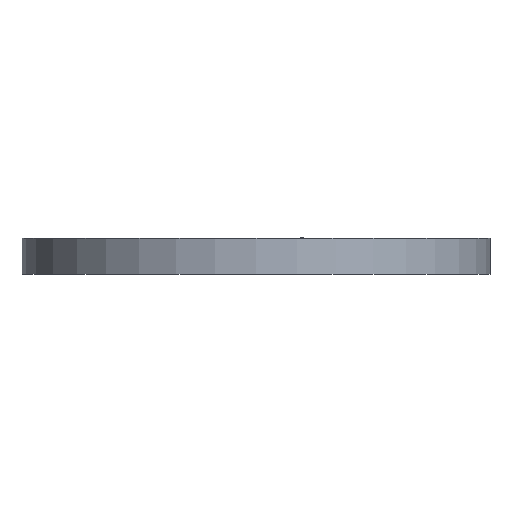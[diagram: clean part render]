
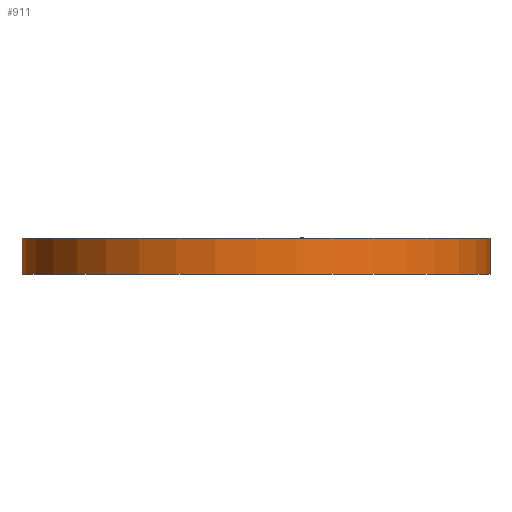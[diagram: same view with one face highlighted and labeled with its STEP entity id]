
A CAD part, front view. The second image highlights one B-rep face of the part: STEP entity #911.
In plain terms, the highlighted cylindrical face has radius 13 mm (diameter 26 mm), a partial arc.
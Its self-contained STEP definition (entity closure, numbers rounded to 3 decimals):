
#37 = CARTESIAN_POINT ( 'NONE',  ( 0., 0., 2. ) ) ;
#41 = DIRECTION ( 'NONE',  ( 0., 0., -1. ) ) ;
#42 = DIRECTION ( 'NONE',  ( -1., 0., 0. ) ) ;
#401 = EDGE_CURVE ( 'NONE', #973, #968, #575, .T. ) ;
#477 = EDGE_CURVE ( 'NONE', #976, #973, #671, .T. ) ;
#487 = EDGE_CURVE ( 'NONE', #962, #968, #659, .T. ) ;
#496 = EDGE_CURVE ( 'NONE', #976, #962, #736, .T. ) ;
#516 = AXIS2_PLACEMENT_3D ( 'NONE', #2005, #1996, #2033 ) ;
#521 = AXIS2_PLACEMENT_3D ( 'NONE', #2864, #2838, #2855 ) ;
#554 = EDGE_LOOP ( 'NONE', ( #1144, #1094, #1145, #1127 ) ) ;
#575 = CIRCLE ( 'NONE', #516, 13. ) ;
#646 = VECTOR ( 'NONE', #2772, 1000. ) ;
#659 = LINE ( 'NONE', #2776, #646 ) ;
#660 = VECTOR ( 'NONE', #2655, 1000. ) ;
#671 = LINE ( 'NONE', #2688, #660 ) ;
#720 = FACE_OUTER_BOUND ( 'NONE', #554, .T. ) ;
#736 = CIRCLE ( 'NONE', #521, 13. ) ;
#743 = CYLINDRICAL_SURFACE ( 'NONE', #808, 13. ) ;
#808 = AXIS2_PLACEMENT_3D ( 'NONE', #37, #41, #42 ) ;
#911 = ADVANCED_FACE ( 'NONE', ( #720 ), #743, .T. ) ;
#962 = VERTEX_POINT ( 'NONE', #1779 ) ;
#968 = VERTEX_POINT ( 'NONE', #1780 ) ;
#973 = VERTEX_POINT ( 'NONE', #1863 ) ;
#976 = VERTEX_POINT ( 'NONE', #1803 ) ;
#1094 = ORIENTED_EDGE ( 'NONE', *, *, #496, .F. ) ;
#1127 = ORIENTED_EDGE ( 'NONE', *, *, #401, .T. ) ;
#1144 = ORIENTED_EDGE ( 'NONE', *, *, #487, .F. ) ;
#1145 = ORIENTED_EDGE ( 'NONE', *, *, #477, .T. ) ;
#1779 = CARTESIAN_POINT ( 'NONE',  ( 13., 0., 2. ) ) ;
#1780 = CARTESIAN_POINT ( 'NONE',  ( 13., 0., 0. ) ) ;
#1803 = CARTESIAN_POINT ( 'NONE',  ( -13., 0., 2. ) ) ;
#1863 = CARTESIAN_POINT ( 'NONE',  ( -13., 0., 0. ) ) ;
#1996 = DIRECTION ( 'NONE',  ( 0., 0., 1. ) ) ;
#2005 = CARTESIAN_POINT ( 'NONE',  ( 0., 0., 0. ) ) ;
#2033 = DIRECTION ( 'NONE',  ( 1., 0., 0. ) ) ;
#2655 = DIRECTION ( 'NONE',  ( 0., 0., -1. ) ) ;
#2688 = CARTESIAN_POINT ( 'NONE',  ( -13., 0., 2. ) ) ;
#2772 = DIRECTION ( 'NONE',  ( 0., 0., -1. ) ) ;
#2776 = CARTESIAN_POINT ( 'NONE',  ( 13., 0., 2. ) ) ;
#2838 = DIRECTION ( 'NONE',  ( 0., 0., 1. ) ) ;
#2855 = DIRECTION ( 'NONE',  ( 1., 0., 0. ) ) ;
#2864 = CARTESIAN_POINT ( 'NONE',  ( 0., 0., 2. ) ) ;
